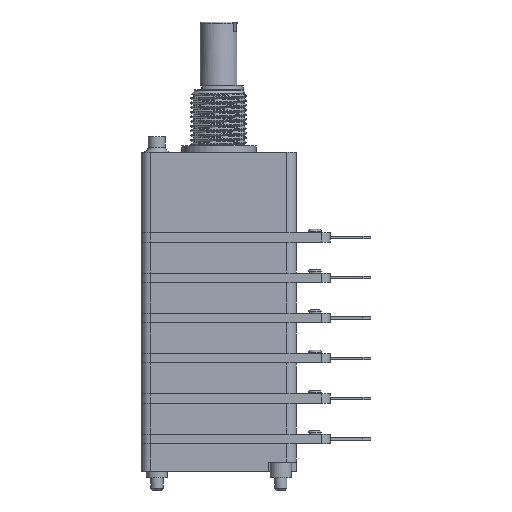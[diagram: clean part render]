
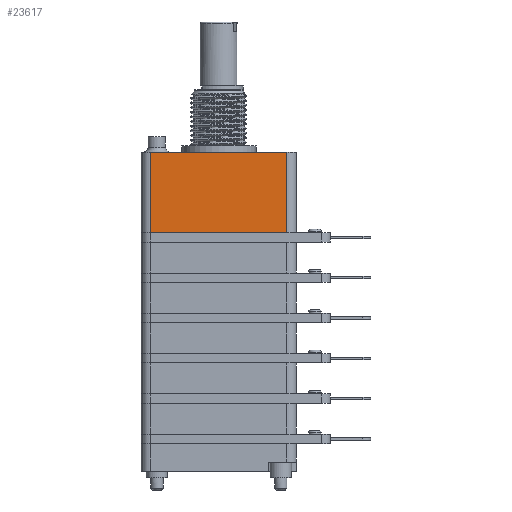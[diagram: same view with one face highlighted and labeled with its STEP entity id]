
A CAD part, left-side view. The second image highlights one B-rep face of the part: STEP entity #23617.
In plain terms, the highlighted planar face has unit normal (-1, 0, 0).
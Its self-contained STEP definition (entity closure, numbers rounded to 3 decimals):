
#19971 = PLANE('',#19972);
#19972 = AXIS2_PLACEMENT_3D('',#19973,#19974,#19975);
#19973 = CARTESIAN_POINT('',(-12.5,-18.,-15.5));
#19974 = DIRECTION('',(1.,0.,0.));
#19975 = DIRECTION('',(0.,0.,1.));
#21692 = VERTEX_POINT('',#21693);
#21693 = CARTESIAN_POINT('',(-12.5,-11.,-14.));
#21860 = CYLINDRICAL_SURFACE('',#21861,1.5);
#21861 = AXIS2_PLACEMENT_3D('',#21862,#21863,#21864);
#21862 = CARTESIAN_POINT('',(-11.,-11.,-14.));
#21863 = DIRECTION('',(0.,0.,1.));
#21864 = DIRECTION('',(-1.,0.,0.));
#21998 = PLANE('',#21999);
#21999 = AXIS2_PLACEMENT_3D('',#22000,#22001,#22002);
#22000 = CARTESIAN_POINT('',(-12.5,-12.5,-1.));
#22001 = DIRECTION('',(0.,0.,1.));
#22002 = DIRECTION('',(1.,0.,0.));
#22140 = VERTEX_POINT('',#22141);
#22141 = CARTESIAN_POINT('',(-12.5,11.,-14.));
#22155 = CYLINDRICAL_SURFACE('',#22156,1.5);
#22156 = AXIS2_PLACEMENT_3D('',#22157,#22158,#22159);
#22157 = CARTESIAN_POINT('',(-11.,11.,-14.));
#22158 = DIRECTION('',(0.,0.,1.));
#22159 = DIRECTION('',(-1.,0.,0.));
#22265 = EDGE_CURVE('',#21692,#22140,#22266,.T.);
#22266 = SURFACE_CURVE('',#22267,(#22271,#22278),.PCURVE_S1.);
#22267 = LINE('',#22268,#22269);
#22268 = CARTESIAN_POINT('',(-12.5,-12.5,-14.));
#22269 = VECTOR('',#22270,1.);
#22270 = DIRECTION('',(0.,1.,0.));
#22271 = PCURVE('',#19971,#22272);
#22272 = DEFINITIONAL_REPRESENTATION('',(#22273),#22277);
#22273 = LINE('',#22274,#22275);
#22274 = CARTESIAN_POINT('',(1.5,-5.5));
#22275 = VECTOR('',#22276,1.);
#22276 = DIRECTION('',(0.,-1.));
#22277 = ( GEOMETRIC_REPRESENTATION_CONTEXT(2) 
PARAMETRIC_REPRESENTATION_CONTEXT() REPRESENTATION_CONTEXT('2D SPACE',''
  ) );
#22278 = PCURVE('',#22279,#22284);
#22279 = PLANE('',#22280);
#22280 = AXIS2_PLACEMENT_3D('',#22281,#22282,#22283);
#22281 = CARTESIAN_POINT('',(-12.5,-12.5,-14.));
#22282 = DIRECTION('',(1.,0.,0.));
#22283 = DIRECTION('',(0.,0.,1.));
#22284 = DEFINITIONAL_REPRESENTATION('',(#22285),#22289);
#22285 = LINE('',#22286,#22287);
#22286 = CARTESIAN_POINT('',(0.,0.));
#22287 = VECTOR('',#22288,1.);
#22288 = DIRECTION('',(0.,-1.));
#22289 = ( GEOMETRIC_REPRESENTATION_CONTEXT(2) 
PARAMETRIC_REPRESENTATION_CONTEXT() REPRESENTATION_CONTEXT('2D SPACE',''
  ) );
#23115 = VERTEX_POINT('',#23116);
#23116 = CARTESIAN_POINT('',(-12.5,-11.,-1.));
#23138 = EDGE_CURVE('',#21692,#23115,#23139,.T.);
#23139 = SURFACE_CURVE('',#23140,(#23144,#23151),.PCURVE_S1.);
#23140 = LINE('',#23141,#23142);
#23141 = CARTESIAN_POINT('',(-12.5,-11.,-14.));
#23142 = VECTOR('',#23143,1.);
#23143 = DIRECTION('',(0.,0.,1.));
#23144 = PCURVE('',#21860,#23145);
#23145 = DEFINITIONAL_REPRESENTATION('',(#23146),#23150);
#23146 = LINE('',#23147,#23148);
#23147 = CARTESIAN_POINT('',(0.,0.));
#23148 = VECTOR('',#23149,1.);
#23149 = DIRECTION('',(0.,1.));
#23150 = ( GEOMETRIC_REPRESENTATION_CONTEXT(2) 
PARAMETRIC_REPRESENTATION_CONTEXT() REPRESENTATION_CONTEXT('2D SPACE',''
  ) );
#23151 = PCURVE('',#22279,#23152);
#23152 = DEFINITIONAL_REPRESENTATION('',(#23153),#23157);
#23153 = LINE('',#23154,#23155);
#23154 = CARTESIAN_POINT('',(0.,-1.5));
#23155 = VECTOR('',#23156,1.);
#23156 = DIRECTION('',(1.,0.));
#23157 = ( GEOMETRIC_REPRESENTATION_CONTEXT(2) 
PARAMETRIC_REPRESENTATION_CONTEXT() REPRESENTATION_CONTEXT('2D SPACE',''
  ) );
#23404 = EDGE_CURVE('',#23115,#23405,#23407,.T.);
#23405 = VERTEX_POINT('',#23406);
#23406 = CARTESIAN_POINT('',(-12.5,11.,-1.));
#23407 = SURFACE_CURVE('',#23408,(#23412,#23419),.PCURVE_S1.);
#23408 = LINE('',#23409,#23410);
#23409 = CARTESIAN_POINT('',(-12.5,-12.5,-1.));
#23410 = VECTOR('',#23411,1.);
#23411 = DIRECTION('',(0.,1.,0.));
#23412 = PCURVE('',#21998,#23413);
#23413 = DEFINITIONAL_REPRESENTATION('',(#23414),#23418);
#23414 = LINE('',#23415,#23416);
#23415 = CARTESIAN_POINT('',(0.,0.));
#23416 = VECTOR('',#23417,1.);
#23417 = DIRECTION('',(0.,1.));
#23418 = ( GEOMETRIC_REPRESENTATION_CONTEXT(2) 
PARAMETRIC_REPRESENTATION_CONTEXT() REPRESENTATION_CONTEXT('2D SPACE',''
  ) );
#23419 = PCURVE('',#22279,#23420);
#23420 = DEFINITIONAL_REPRESENTATION('',(#23421),#23425);
#23421 = LINE('',#23422,#23423);
#23422 = CARTESIAN_POINT('',(13.,0.));
#23423 = VECTOR('',#23424,1.);
#23424 = DIRECTION('',(0.,-1.));
#23425 = ( GEOMETRIC_REPRESENTATION_CONTEXT(2) 
PARAMETRIC_REPRESENTATION_CONTEXT() REPRESENTATION_CONTEXT('2D SPACE',''
  ) );
#23597 = EDGE_CURVE('',#22140,#23405,#23598,.T.);
#23598 = SURFACE_CURVE('',#23599,(#23603,#23610),.PCURVE_S1.);
#23599 = LINE('',#23600,#23601);
#23600 = CARTESIAN_POINT('',(-12.5,11.,-14.));
#23601 = VECTOR('',#23602,1.);
#23602 = DIRECTION('',(0.,0.,1.));
#23603 = PCURVE('',#22155,#23604);
#23604 = DEFINITIONAL_REPRESENTATION('',(#23605),#23609);
#23605 = LINE('',#23606,#23607);
#23606 = CARTESIAN_POINT('',(-0.,0.));
#23607 = VECTOR('',#23608,1.);
#23608 = DIRECTION('',(-0.,1.));
#23609 = ( GEOMETRIC_REPRESENTATION_CONTEXT(2) 
PARAMETRIC_REPRESENTATION_CONTEXT() REPRESENTATION_CONTEXT('2D SPACE',''
  ) );
#23610 = PCURVE('',#22279,#23611);
#23611 = DEFINITIONAL_REPRESENTATION('',(#23612),#23616);
#23612 = LINE('',#23613,#23614);
#23613 = CARTESIAN_POINT('',(0.,-23.5));
#23614 = VECTOR('',#23615,1.);
#23615 = DIRECTION('',(1.,0.));
#23616 = ( GEOMETRIC_REPRESENTATION_CONTEXT(2) 
PARAMETRIC_REPRESENTATION_CONTEXT() REPRESENTATION_CONTEXT('2D SPACE',''
  ) );
#23617 = ADVANCED_FACE('',(#23618),#22279,.F.);
#23618 = FACE_BOUND('',#23619,.F.);
#23619 = EDGE_LOOP('',(#23620,#23621,#23622,#23623));
#23620 = ORIENTED_EDGE('',*,*,#23404,.F.);
#23621 = ORIENTED_EDGE('',*,*,#23138,.F.);
#23622 = ORIENTED_EDGE('',*,*,#22265,.T.);
#23623 = ORIENTED_EDGE('',*,*,#23597,.T.);
